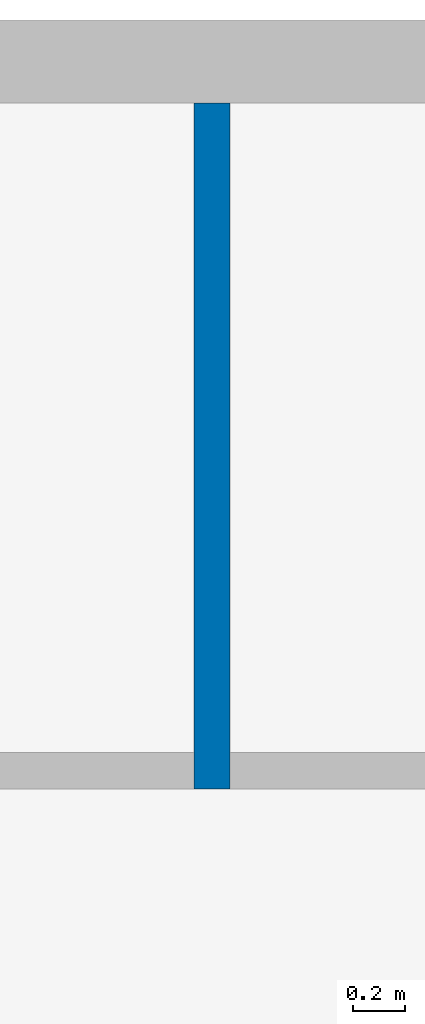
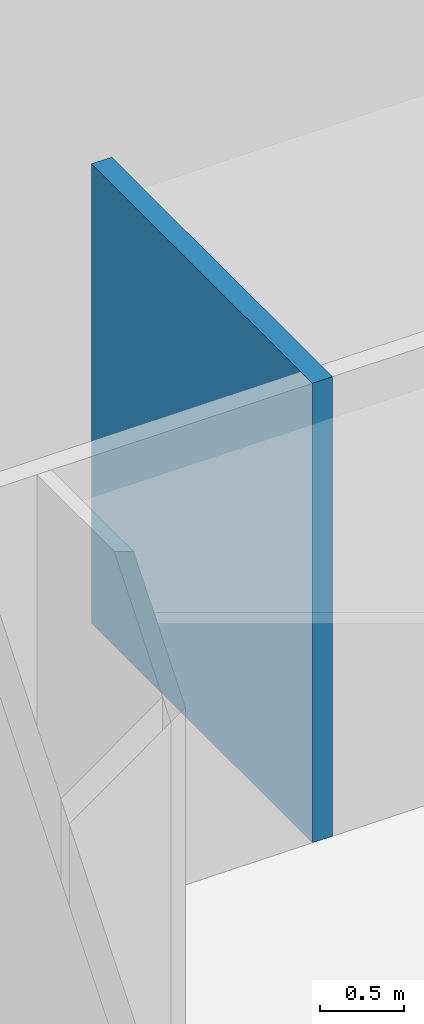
# One storey, part 2 of 43: 1 wall.
"""IFC2X3 building model written with IfcOpenShell, lengths in millimetres."""

from ifc_helpers import new_model, entity, si_unit, converted_unit, derived_unit, direction, frame, frame_2d, origin, place, context, subcontext, project, spatial, polyline, rectangle, extrude, clip, bounded_halfspace, material, layer, layer_set, layer_usage, type_object, element, save


model = new_model("IFC2X3")

# Units and contexts
model_context = context("Model", 3, precision=0.01, world=origin(), true_north=direction((6.123031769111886e-17, 1.0)))
body_context = subcontext(model_context, "Body", "Model", "MODEL_VIEW")
ifc_project = project(units=[si_unit("LENGTHUNIT", "METRE", prefix="MILLI"), si_unit("AREAUNIT", "SQUARE_METRE"), si_unit("VOLUMEUNIT", "CUBIC_METRE"), converted_unit("PLANEANGLEUNIT", "DEGREE", entity("IfcRatioMeasure", 0.017453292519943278), si_unit("PLANEANGLEUNIT", "RADIAN"), dimensions=[0, 0, 0, 0, 0, 0, 0]), si_unit("MASSUNIT", "GRAM", prefix="KILO"), derived_unit("MASSDENSITYUNIT", [(si_unit("MASSUNIT", "GRAM", prefix="KILO"), 1), (si_unit("LENGTHUNIT", "METRE"), -3)]), derived_unit("MOMENTOFINERTIAUNIT", [(si_unit("LENGTHUNIT", "METRE"), 4)]), si_unit("TIMEUNIT", "SECOND"), si_unit("FREQUENCYUNIT", "HERTZ"), si_unit("THERMODYNAMICTEMPERATUREUNIT", "DEGREE_CELSIUS"), derived_unit("THERMALTRANSMITTANCEUNIT", [(si_unit("MASSUNIT", "GRAM", prefix="KILO"), 1), (si_unit("THERMODYNAMICTEMPERATUREUNIT", "KELVIN"), -1), (si_unit("TIMEUNIT", "SECOND"), -3)]), derived_unit("VOLUMETRICFLOWRATEUNIT", [(si_unit("LENGTHUNIT", "METRE"), 3), (si_unit("TIMEUNIT", "SECOND"), -1)]), derived_unit("MASSFLOWRATEUNIT", [(si_unit("MASSUNIT", "GRAM", prefix="KILO"), 1), (si_unit("TIMEUNIT", "SECOND"), -1)]), derived_unit("ROTATIONALFREQUENCYUNIT", [(si_unit("TIMEUNIT", "SECOND"), -1)]), si_unit("ELECTRICCURRENTUNIT", "AMPERE"), si_unit("ELECTRICVOLTAGEUNIT", "VOLT"), si_unit("POWERUNIT", "WATT"), si_unit("FORCEUNIT", "NEWTON", prefix="KILO"), si_unit("ILLUMINANCEUNIT", "LUX"), si_unit("LUMINOUSFLUXUNIT", "LUMEN"), si_unit("LUMINOUSINTENSITYUNIT", "CANDELA"), derived_unit("USERDEFINED", [(si_unit("MASSUNIT", "GRAM", prefix="KILO"), -1), (si_unit("LENGTHUNIT", "METRE"), -2), (si_unit("TIMEUNIT", "SECOND"), 3), (si_unit("LUMINOUSFLUXUNIT", "LUMEN"), 1)]), derived_unit("SOUNDPOWERUNIT", [(si_unit("MASSUNIT", "GRAM", prefix="KILO"), 1), (si_unit("LENGTHUNIT", "METRE"), 2), (si_unit("TIMEUNIT", "SECOND"), -3)]), derived_unit("SOUNDPRESSUREUNIT", [(si_unit("MASSUNIT", "GRAM", prefix="KILO"), 1), (si_unit("LENGTHUNIT", "METRE"), -1), (si_unit("TIMEUNIT", "SECOND"), -2)]), derived_unit("LINEARVELOCITYUNIT", [(si_unit("LENGTHUNIT", "METRE"), 1), (si_unit("TIMEUNIT", "SECOND"), -1)]), si_unit("PRESSUREUNIT", "PASCAL"), derived_unit("USERDEFINED", [(si_unit("LENGTHUNIT", "METRE"), -2), (si_unit("MASSUNIT", "GRAM", prefix="KILO"), 1), (si_unit("TIMEUNIT", "SECOND"), -2)]), derived_unit("LINEARFORCEUNIT", [(si_unit("MASSUNIT", "GRAM", prefix="KILO"), 1), (si_unit("LENGTHUNIT", "METRE"), 1), (si_unit("TIMEUNIT", "SECOND"), -2), (si_unit("LENGTHUNIT", "METRE"), -1)]), derived_unit("PLANARFORCEUNIT", [(si_unit("MASSUNIT", "GRAM", prefix="KILO"), 1), (si_unit("LENGTHUNIT", "METRE"), 1), (si_unit("TIMEUNIT", "SECOND"), -2), (si_unit("LENGTHUNIT", "METRE"), -2)])], contexts=[model_context])

# Site, building, storey
site_placement = place(None, origin())
site = spatial("IfcSite", under=ifc_project, at=site_placement, Name="Default", CompositionType="ELEMENT")
building_placement = place(site_placement, origin())
building = spatial("IfcBuilding", under=site, at=building_placement, CompositionType="ELEMENT")
storey_placement = place(building_placement, frame((0.0, 0.0, 270.0)))
storey = spatial("IfcBuildingStorey", under=building, at=storey_placement, Name="Niveau 0", CompositionType="ELEMENT", Elevation=270.0)

# Wall
ifc_material = material(Name="Peinture")
ifc_layer = layer(ifc_material, 140.0)
ifc_layer_set = layer_set([ifc_layer], Name="Mur de base:Générique - 140 mm")
ifc_layer_usage = layer_usage(ifc_layer_set, "AXIS2", "POSITIVE", -69.99999999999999)
wall_type = type_object("IfcWallType", Name="Mur de base:Générique - 140 mm", PredefinedType="STANDARD", material=ifc_layer_set)
wall_placement = place(storey_placement, frame((-3570.0, -320.0, 0.0), z_axis=(0.0, 0.0, 1.0), x_axis=(0.0, -1.0, 0.0)))
element("IfcWallStandardCase", 1, at=wall_placement, inside=storey, type_object=wall_type, material=ifc_layer_usage, Name="Mur de base:Générique - 140 mm", ObjectType="Mur de base:Générique - 140 mm", context=body_context, shape_type="Clipping", body=[
    clip(extrude(rectangle(XDim=2640.0000000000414, YDim=139.99999999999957, at=frame_2d((1320.0000000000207, 0.0), x_axis=(-1.0, 0.0))), origin(), (0.0, 0.0, 1.0), 3350.0), bounded_halfspace(frame((0.0, -70.0, 3350.0), z_axis=(0.0, 0.0, -1.0), x_axis=(0.0, 1.0, 0.0)), True, frame((0.0, -70.0, 3350.0)), polyline([(0.0, 0.0), (762000.0, 0.0), (804672.0, 0.0), (804672.0, 42672.0), (762000.0, 42672.0), (0.0, 42672.0), (0.0, 0.0)]))),
])

save(model, "model.ifc")
